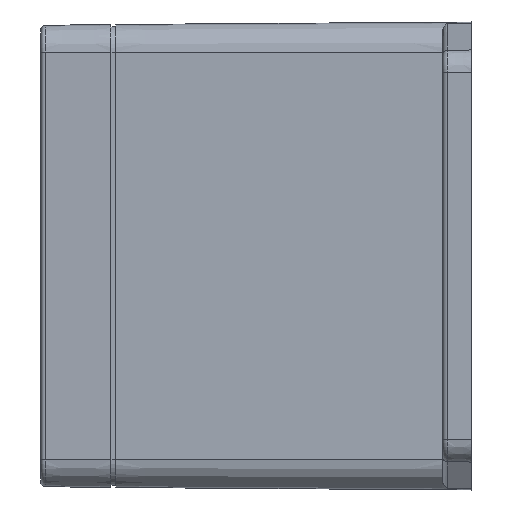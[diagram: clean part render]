
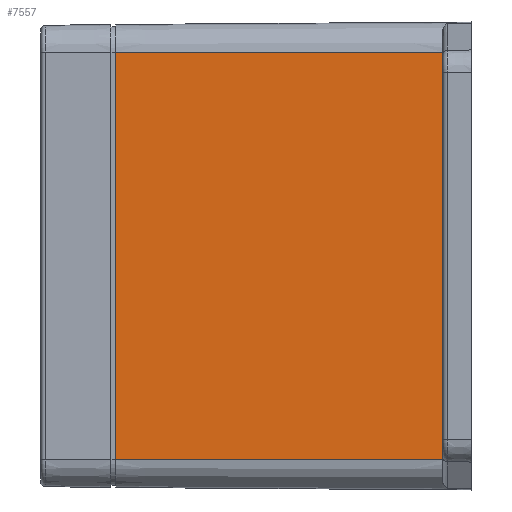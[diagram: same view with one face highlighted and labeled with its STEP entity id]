
A CAD part, left-side view. The second image highlights one B-rep face of the part: STEP entity #7557.
In plain terms, the highlighted planar face has unit normal (-1, 0.007, 0).
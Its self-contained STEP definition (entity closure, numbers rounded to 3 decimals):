
#2142 = CARTESIAN_POINT ( 'NONE',  ( -49.957, -1., 43.95 ) ) ;
#2856 = ORIENTED_EDGE ( 'NONE', *, *, #31448, .T. ) ;
#5026 = VERTEX_POINT ( 'NONE', #27038 ) ;
#5093 = CARTESIAN_POINT ( 'NONE',  ( -50.45, -71.6, 43.95 ) ) ;
#5420 = VERTEX_POINT ( 'NONE', #27561 ) ;
#5530 = AXIS2_PLACEMENT_3D ( 'NONE', #29970, #21568, #15769 ) ;
#5835 = VECTOR ( 'NONE', #16060, 1000. ) ;
#6884 = EDGE_CURVE ( 'NONE', #5026, #5420, #16293, .T. ) ;
#7182 = PLANE ( 'NONE',  #5530 ) ;
#7193 = VERTEX_POINT ( 'NONE', #29725 ) ;
#7557 = ADVANCED_FACE ( 'NONE', ( #32799 ), #7182, .T. ) ;
#9436 = VECTOR ( 'NONE', #35751, 1000. ) ;
#12980 = LINE ( 'NONE', #2142, #23155 ) ;
#14354 = EDGE_CURVE ( 'NONE', #33205, #7193, #26796, .T. ) ;
#14786 = EDGE_CURVE ( 'NONE', #33205, #5026, #24643, .T. ) ;
#15769 = DIRECTION ( 'NONE',  ( -0.007, -1., 0. ) ) ;
#16060 = DIRECTION ( 'NONE',  ( 0., 0., -1. ) ) ;
#16293 = LINE ( 'NONE', #36116, #19354 ) ;
#16604 = ORIENTED_EDGE ( 'NONE', *, *, #14786, .F. ) ;
#19354 = VECTOR ( 'NONE', #35931, 1000. ) ;
#21568 = DIRECTION ( 'NONE',  ( -1., 0.007, 0. ) ) ;
#21589 = DIRECTION ( 'NONE',  ( 0., 0., -1. ) ) ;
#23155 = VECTOR ( 'NONE', #21589, 1000. ) ;
#24344 = CARTESIAN_POINT ( 'NONE',  ( -49.95, 0., 43.95 ) ) ;
#24643 = LINE ( 'NONE', #36947, #5835 ) ;
#26796 = LINE ( 'NONE', #24344, #9436 ) ;
#27038 = CARTESIAN_POINT ( 'NONE',  ( -50.45, -71.6, -43.95 ) ) ;
#27197 = EDGE_LOOP ( 'NONE', ( #30490, #2856, #28459, #16604 ) ) ;
#27561 = CARTESIAN_POINT ( 'NONE',  ( -49.957, -1., -43.95 ) ) ;
#28459 = ORIENTED_EDGE ( 'NONE', *, *, #6884, .F. ) ;
#29725 = CARTESIAN_POINT ( 'NONE',  ( -49.957, -1., 43.95 ) ) ;
#29970 = CARTESIAN_POINT ( 'NONE',  ( -49.95, 0., 43.95 ) ) ;
#30490 = ORIENTED_EDGE ( 'NONE', *, *, #14354, .T. ) ;
#31448 = EDGE_CURVE ( 'NONE', #7193, #5420, #12980, .T. ) ;
#32799 = FACE_OUTER_BOUND ( 'NONE', #27197, .T. ) ;
#33205 = VERTEX_POINT ( 'NONE', #5093 ) ;
#35751 = DIRECTION ( 'NONE',  ( 0.007, 1., 0. ) ) ;
#35931 = DIRECTION ( 'NONE',  ( 0.007, 1., 0. ) ) ;
#36116 = CARTESIAN_POINT ( 'NONE',  ( -49.95, 0., -43.95 ) ) ;
#36947 = CARTESIAN_POINT ( 'NONE',  ( -50.45, -71.6, 43.95 ) ) ;
